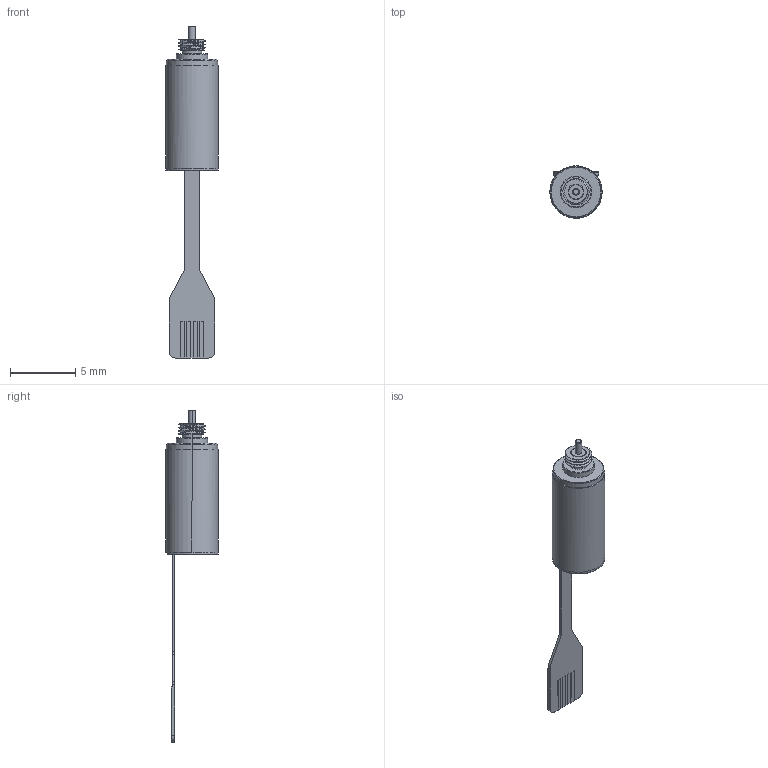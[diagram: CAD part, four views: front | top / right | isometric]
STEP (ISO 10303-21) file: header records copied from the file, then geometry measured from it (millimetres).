
FILE_DESCRIPTION (( 'STEP AP203' ), '1' );
FILE_NAME ('BMN04-0829.step', '2020-10-29T07:54:41', ( '' ), ( '' ), 'SwSTEP 2.0', 'SolidWorks 2019', '' );
FILE_SCHEMA (( 'CONFIG_CONTROL_DESIGN' ));
Length unit declared in the file: millimetre
Products named in the file (1): BMN04-0829
Bounding box: 4 x 4 x 25.35 mm (x, y, z)
Volume: 118.4 mm3; surface area: 216.8 mm2
Topology: 1 solids, 1 shells, 92 faces, 225 edges, 144 vertices
Faces by surface type: plane 46, cylinder 34, cone 7, bspline 3, torus 2
Entity records: 3249 total; most frequent: CARTESIAN_POINT 1031, ORIENTED_EDGE 450, DIRECTION 439, EDGE_CURVE 225, AXIS2_PLACEMENT_3D 152, VERTEX_POINT 144, LINE 135, VECTOR 135
